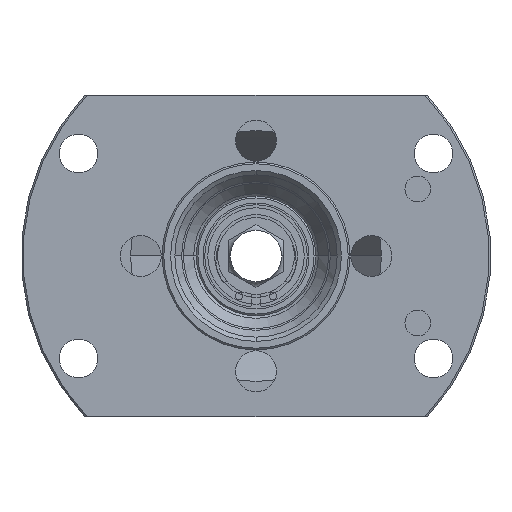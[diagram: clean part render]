
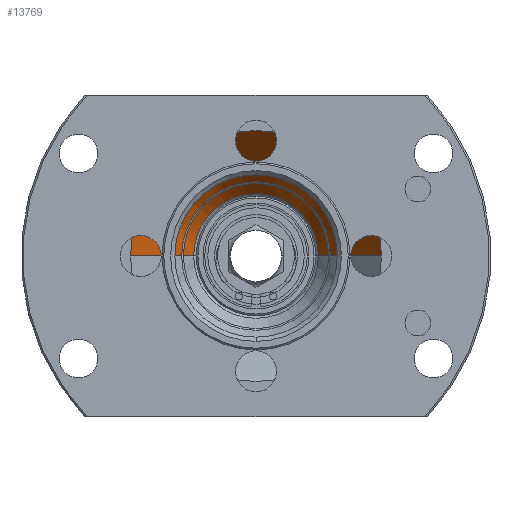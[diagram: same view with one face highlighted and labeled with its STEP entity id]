
A CAD part, front view. The second image highlights one B-rep face of the part: STEP entity #13769.
In plain terms, the highlighted conical face has half-angle 36.363 degrees and reference radius 12.402 mm.
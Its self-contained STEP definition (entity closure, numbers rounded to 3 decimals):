
#173 = CIRCLE ( 'NONE', #7471, 17.505 ) ;
#788 = CARTESIAN_POINT ( 'NONE',  ( 104.079, 363.43, 0. ) ) ;
#1995 = DIRECTION ( 'NONE',  ( 0.593, -0.805, 0. ) ) ;
#2347 = VERTEX_POINT ( 'NONE', #15098 ) ;
#3548 = CARTESIAN_POINT ( 'NONE',  ( 111.379, 356.499, 0. ) ) ;
#3580 = CARTESIAN_POINT ( 'NONE',  ( 93.873, 349.569, 0. ) ) ;
#3636 = CARTESIAN_POINT ( 'NONE',  ( 111.379, 349.569, 0. ) ) ;
#3733 = DIRECTION ( 'NONE',  ( 0., -1., 0. ) ) ;
#5174 = ORIENTED_EDGE ( 'NONE', *, *, #17200, .F. ) ;
#5372 = VECTOR ( 'NONE', #1995, 1000. ) ;
#5505 = VECTOR ( 'NONE', #13759, 1000. ) ;
#6284 = DIRECTION ( 'NONE',  ( 1., 0., 0. ) ) ;
#6398 = FACE_OUTER_BOUND ( 'NONE', #11815, .T. ) ;
#7471 = AXIS2_PLACEMENT_3D ( 'NONE', #3636, #3733, #6284 ) ;
#8249 = AXIS2_PLACEMENT_3D ( 'NONE', #3548, #15173, #14889 ) ;
#9019 = LINE ( 'NONE', #13611, #5372 ) ;
#9938 = CIRCLE ( 'NONE', #14515, 7.3 ) ;
#11815 = EDGE_LOOP ( 'NONE', ( #18279, #17279, #14920, #5174 ) ) ;
#11989 = CARTESIAN_POINT ( 'NONE',  ( 128.884, 349.569, 0. ) ) ;
#13243 = EDGE_CURVE ( 'NONE', #17337, #16461, #15000, .T. ) ;
#13611 = CARTESIAN_POINT ( 'NONE',  ( 118.678, 363.43, 0. ) ) ;
#13759 = DIRECTION ( 'NONE',  ( -0.593, -0.805, 0. ) ) ;
#13769 = ADVANCED_FACE ( 'NONE', ( #6398 ), #16464, .T. ) ;
#14515 = AXIS2_PLACEMENT_3D ( 'NONE', #15970, #15785, #17582 ) ;
#14889 = DIRECTION ( 'NONE',  ( 1., 0., 0. ) ) ;
#14920 = ORIENTED_EDGE ( 'NONE', *, *, #16837, .F. ) ;
#15000 = LINE ( 'NONE', #788, #5505 ) ;
#15098 = CARTESIAN_POINT ( 'NONE',  ( 118.678, 363.43, 0. ) ) ;
#15173 = DIRECTION ( 'NONE',  ( 0., -1., 0. ) ) ;
#15785 = DIRECTION ( 'NONE',  ( 0., -1., 0. ) ) ;
#15970 = CARTESIAN_POINT ( 'NONE',  ( 111.379, 363.43, 0. ) ) ;
#16461 = VERTEX_POINT ( 'NONE', #3580 ) ;
#16464 = CONICAL_SURFACE ( 'NONE', #8249, 12.403, 0.635 ) ;
#16837 = EDGE_CURVE ( 'NONE', #17217, #16461, #173, .T. ) ;
#16918 = CARTESIAN_POINT ( 'NONE',  ( 104.079, 363.43, 0. ) ) ;
#17200 = EDGE_CURVE ( 'NONE', #2347, #17217, #9019, .T. ) ;
#17217 = VERTEX_POINT ( 'NONE', #11989 ) ;
#17279 = ORIENTED_EDGE ( 'NONE', *, *, #13243, .T. ) ;
#17337 = VERTEX_POINT ( 'NONE', #16918 ) ;
#17544 = EDGE_CURVE ( 'NONE', #2347, #17337, #9938, .T. ) ;
#17582 = DIRECTION ( 'NONE',  ( 1., 0., 0. ) ) ;
#18279 = ORIENTED_EDGE ( 'NONE', *, *, #17544, .T. ) ;
